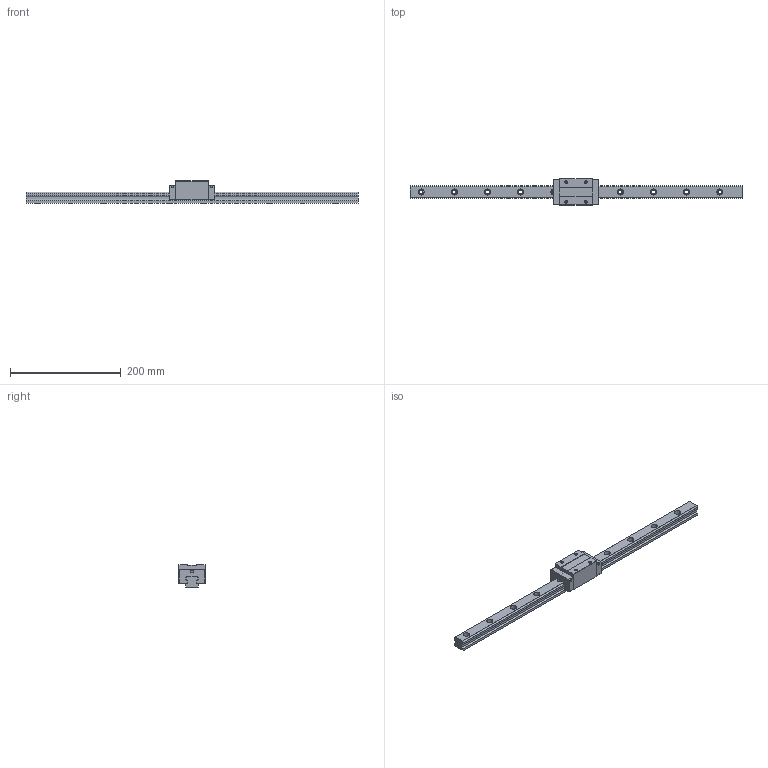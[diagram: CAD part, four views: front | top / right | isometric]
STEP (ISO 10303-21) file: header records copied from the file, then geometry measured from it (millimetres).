
FILE_DESCRIPTION (( 'STEP AP203' ), '1' );
FILE_NAME ('TRH25VN-XN.STEP', '2024-05-17T06:13:54', ( '' ), ( '' ), 'SwSTEP 2.0', 'SolidWorks 2022', '' );
FILE_SCHEMA (( 'CONFIG_CONTROL_DESIGN' ));
Length unit declared in the file: millimetre
Products named in the file (1): TRH25VN-XN
Bounding box: 600 x 48 x 40 mm (x, y, z)
Volume: 333546 mm3; surface area: 77752.9 mm2
Topology: 2 solids, 2 shells, 200 faces, 520 edges, 336 vertices
Faces by surface type: cylinder 96, plane 88, cone 16
Entity records: 6223 total; most frequent: DIRECTION 1114, CARTESIAN_POINT 1049, ORIENTED_EDGE 1024, EDGE_CURVE 512, AXIS2_PLACEMENT_3D 401, VERTEX_POINT 336, LINE 312, VECTOR 312
